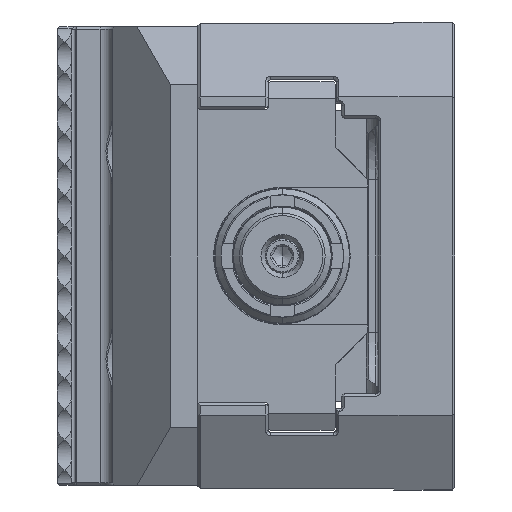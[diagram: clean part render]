
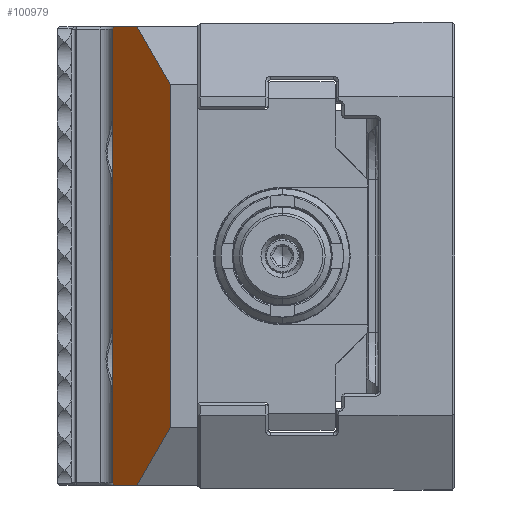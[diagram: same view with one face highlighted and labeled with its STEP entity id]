
A CAD part, left-side view. The second image highlights one B-rep face of the part: STEP entity #100979.
In plain terms, the highlighted planar face has unit normal (-0.707, 0.707, 0) as drawn and (0.707, 0.707, 0) by its records, which use the part's own axes.
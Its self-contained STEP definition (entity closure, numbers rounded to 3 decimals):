
#260 = DIRECTION ( 'NONE',  ( -0.707, 0.707, 0. ) ) ;
#1326 = DIRECTION ( 'NONE',  ( 0.707, 0.707, 0. ) ) ;
#2456 = DIRECTION ( 'NONE',  ( -0.707, 0.707, 0. ) ) ;
#3784 = DIRECTION ( 'NONE',  ( 0., 0., 1. ) ) ;
#4014 = LINE ( 'NONE', #100700, #79197 ) ;
#6680 = CARTESIAN_POINT ( 'NONE',  ( 29.5, 13.6, -37.5 ) ) ;
#7009 = CARTESIAN_POINT ( 'NONE',  ( 31.509, 11.591, -40.282 ) ) ;
#9944 = ORIENTED_EDGE ( 'NONE', *, *, #13827, .T. ) ;
#10053 = VECTOR ( 'NONE', #74868, 1000. ) ;
#10310 = LINE ( 'NONE', #43597, #104356 ) ;
#12311 = EDGE_CURVE ( 'NONE', #95788, #87118, #4014, .T. ) ;
#13148 = EDGE_CURVE ( 'NONE', #23116, #34662, #23697, .T. ) ;
#13486 = EDGE_CURVE ( 'NONE', #95788, #47346, #10310, .T. ) ;
#13827 = EDGE_CURVE ( 'NONE', #67778, #32722, #91502, .T. ) ;
#14639 = VECTOR ( 'NONE', #64608, 1000. ) ;
#22568 = ORIENTED_EDGE ( 'NONE', *, *, #30298, .T. ) ;
#22904 = LINE ( 'NONE', #7009, #91457 ) ;
#23116 = VERTEX_POINT ( 'NONE', #35961 ) ;
#23305 = EDGE_CURVE ( 'NONE', #34662, #67778, #62821, .T. ) ;
#23696 = EDGE_LOOP ( 'NONE', ( #38069, #93355, #9944, #22568, #56102, #38954, #36948, #44635 ) ) ;
#23697 = LINE ( 'NONE', #56413, #10053 ) ;
#23963 = LINE ( 'NONE', #80993, #14639 ) ;
#24224 = LINE ( 'NONE', #96587, #83099 ) ;
#24617 = PLANE ( 'NONE',  #27396 ) ;
#26803 = EDGE_CURVE ( 'NONE', #81798, #23116, #22904, .T. ) ;
#27396 = AXIS2_PLACEMENT_3D ( 'NONE', #80069, #1326, #260 ) ;
#30298 = EDGE_CURVE ( 'NONE', #32722, #87118, #24224, .T. ) ;
#32156 = DIRECTION ( 'NONE',  ( 0.577, -0.577, 0.577 ) ) ;
#32722 = VERTEX_POINT ( 'NONE', #42416 ) ;
#34662 = VERTEX_POINT ( 'NONE', #6680 ) ;
#35961 = CARTESIAN_POINT ( 'NONE',  ( 33.115, 9.985, -37.5 ) ) ;
#36948 = ORIENTED_EDGE ( 'NONE', *, *, #47998, .F. ) ;
#37461 = CARTESIAN_POINT ( 'NONE',  ( 33.115, 9.985, 37.5 ) ) ;
#37596 = CARTESIAN_POINT ( 'NONE',  ( 29.1, 14., -37.1 ) ) ;
#38035 = DIRECTION ( 'NONE',  ( -0.577, 0.577, 0.577 ) ) ;
#38069 = ORIENTED_EDGE ( 'NONE', *, *, #13148, .T. ) ;
#38954 = ORIENTED_EDGE ( 'NONE', *, *, #13486, .T. ) ;
#42416 = CARTESIAN_POINT ( 'NONE',  ( 29.1, 14., 37.1 ) ) ;
#43597 = CARTESIAN_POINT ( 'NONE',  ( 57.49, -14.39, -4.718 ) ) ;
#44635 = ORIENTED_EDGE ( 'NONE', *, *, #26803, .T. ) ;
#47346 = VERTEX_POINT ( 'NONE', #50192 ) ;
#47998 = EDGE_CURVE ( 'NONE', #81798, #47346, #23963, .T. ) ;
#50192 = CARTESIAN_POINT ( 'NONE',  ( 38.6, 4.5, 28. ) ) ;
#50389 = VECTOR ( 'NONE', #3784, 1000. ) ;
#55779 = FACE_OUTER_BOUND ( 'NONE', #23696, .T. ) ;
#56102 = ORIENTED_EDGE ( 'NONE', *, *, #12311, .F. ) ;
#56413 = CARTESIAN_POINT ( 'NONE',  ( 29.1, 14., -37.5 ) ) ;
#62821 = LINE ( 'NONE', #93999, #94357 ) ;
#64608 = DIRECTION ( 'NONE',  ( 0., 0., 1. ) ) ;
#67778 = VERTEX_POINT ( 'NONE', #37596 ) ;
#73674 = CARTESIAN_POINT ( 'NONE',  ( 29.5, 13.6, 37.5 ) ) ;
#74868 = DIRECTION ( 'NONE',  ( -0.707, 0.707, 0. ) ) ;
#75782 = DIRECTION ( 'NONE',  ( 0.447, -0.447, -0.775 ) ) ;
#79197 = VECTOR ( 'NONE', #2456, 1000. ) ;
#80069 = CARTESIAN_POINT ( 'NONE',  ( 29.1, 14., -37.5 ) ) ;
#80323 = CARTESIAN_POINT ( 'NONE',  ( 38.6, 4.5, -28. ) ) ;
#80993 = CARTESIAN_POINT ( 'NONE',  ( 38.6, 4.5, -37.5 ) ) ;
#81798 = VERTEX_POINT ( 'NONE', #80323 ) ;
#83099 = VECTOR ( 'NONE', #32156, 1000. ) ;
#87118 = VERTEX_POINT ( 'NONE', #73674 ) ;
#91457 = VECTOR ( 'NONE', #103682, 1000. ) ;
#91502 = LINE ( 'NONE', #98403, #50389 ) ;
#93355 = ORIENTED_EDGE ( 'NONE', *, *, #23305, .T. ) ;
#93999 = CARTESIAN_POINT ( 'NONE',  ( 29.233, 13.867, -37.233 ) ) ;
#94357 = VECTOR ( 'NONE', #38035, 1000. ) ;
#95788 = VERTEX_POINT ( 'NONE', #37461 ) ;
#96587 = CARTESIAN_POINT ( 'NONE',  ( 4.233, 38.867, 12.233 ) ) ;
#98403 = CARTESIAN_POINT ( 'NONE',  ( 29.1, 14., -37.5 ) ) ;
#100700 = CARTESIAN_POINT ( 'NONE',  ( 29.1, 14., 37.5 ) ) ;
#100979 = ADVANCED_FACE ( 'NONE', ( #55779 ), #24617, .T. ) ;
#103682 = DIRECTION ( 'NONE',  ( -0.447, 0.447, -0.775 ) ) ;
#104356 = VECTOR ( 'NONE', #75782, 1000. ) ;
